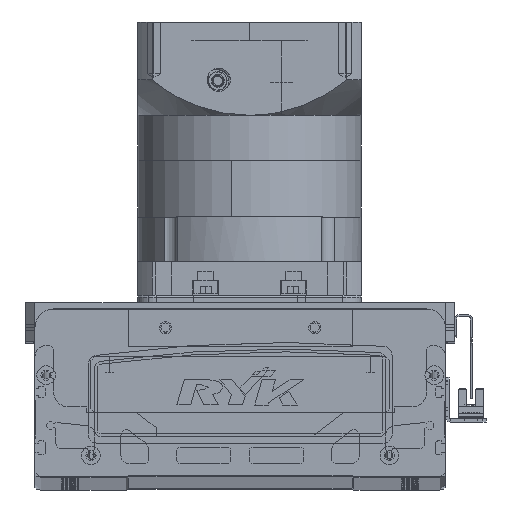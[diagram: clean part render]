
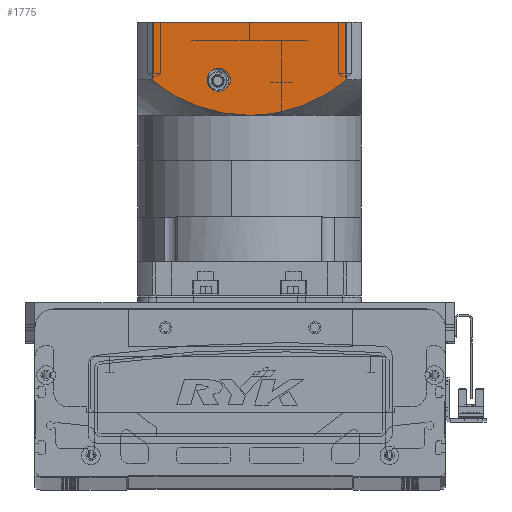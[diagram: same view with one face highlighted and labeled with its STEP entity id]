
A CAD part, top view. The second image highlights one B-rep face of the part: STEP entity #1775.
In plain terms, the highlighted planar face has unit normal (0, 0, 1) as drawn and (0, -1, 0) by its records, which use the part's own axes.
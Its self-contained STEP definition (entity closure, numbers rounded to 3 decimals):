
#416 = DIRECTION ( 'NONE',  ( 0., 1., 0. ) ) ;
#470 = VERTEX_POINT ( 'NONE', #7148 ) ;
#1609 = CIRCLE ( 'NONE', #64816, 6.25 ) ;
#1775 = ADVANCED_FACE ( 'NONE', ( #56887, #43440 ), #16376, .T. ) ;
#2527 = VERTEX_POINT ( 'NONE', #44979 ) ;
#3485 = CARTESIAN_POINT ( 'NONE',  ( -52.156, -60., -119.5 ) ) ;
#5519 = CARTESIAN_POINT ( 'NONE',  ( 25.577, -60., -104.596 ) ) ;
#6042 = CARTESIAN_POINT ( 'NONE',  ( 41.545, -60., -111.931 ) ) ;
#6159 = CARTESIAN_POINT ( 'NONE',  ( -9.477, -60., -101.046 ) ) ;
#6307 = CARTESIAN_POINT ( 'NONE',  ( 16.5, -60., -119.5 ) ) ;
#7148 = CARTESIAN_POINT ( 'NONE',  ( 52.156, -60., -119.5 ) ) ;
#7881 = CARTESIAN_POINT ( 'NONE',  ( 16.5, -60., -119.5 ) ) ;
#8103 = CARTESIAN_POINT ( 'NONE',  ( 16.5, -60., -125.75 ) ) ;
#8963 = AXIS2_PLACEMENT_3D ( 'NONE', #22832, #77818, #34610 ) ;
#9135 = CARTESIAN_POINT ( 'NONE',  ( -60., -60., -150.5 ) ) ;
#9288 = AXIS2_PLACEMENT_3D ( 'NONE', #6307, #416, #43598 ) ;
#10429 = EDGE_CURVE ( 'NONE', #43168, #30530, #49308, .T. ) ;
#11317 = CARTESIAN_POINT ( 'NONE',  ( -36.409, -60., -109.113 ) ) ;
#11457 = CARTESIAN_POINT ( 'NONE',  ( 4.753, -60., -100.5 ) ) ;
#11719 = CARTESIAN_POINT ( 'NONE',  ( 36.444, -60., -108.986 ) ) ;
#11818 = VECTOR ( 'NONE', #55446, 1000. ) ;
#14432 = ORIENTED_EDGE ( 'NONE', *, *, #22208, .F. ) ;
#15973 = CARTESIAN_POINT ( 'NONE',  ( -52.156, -60., -150.5 ) ) ;
#16376 = PLANE ( 'NONE',  #8963 ) ;
#18150 = CARTESIAN_POINT ( 'NONE',  ( 0., -60., -100.5 ) ) ;
#18535 = CARTESIAN_POINT ( 'NONE',  ( -18.792, -60., -102.562 ) ) ;
#18804 = CARTESIAN_POINT ( 'NONE',  ( -29.939, -60., -106.183 ) ) ;
#19048 = CARTESIAN_POINT ( 'NONE',  ( -23.319, -60., -103.777 ) ) ;
#19460 = DIRECTION ( 'NONE',  ( 0., 1., 0. ) ) ;
#20231 = ORIENTED_EDGE ( 'NONE', *, *, #72956, .F. ) ;
#22208 = EDGE_CURVE ( 'NONE', #43168, #57629, #41519, .T. ) ;
#22832 = CARTESIAN_POINT ( 'NONE',  ( -60., -60., -150.5 ) ) ;
#24117 = EDGE_CURVE ( 'NONE', #57629, #2527, #32903, .T. ) ;
#24598 = CARTESIAN_POINT ( 'NONE',  ( 45.542, -60., -114.478 ) ) ;
#24720 = CARTESIAN_POINT ( 'NONE',  ( -8.294, -60., -100.916 ) ) ;
#24951 = ORIENTED_EDGE ( 'NONE', *, *, #50006, .T. ) ;
#26439 = DIRECTION ( 'NONE',  ( 0., 0., -1. ) ) ;
#28230 = EDGE_LOOP ( 'NONE', ( #14432, #52913, #24951, #20231, #53551 ) ) ;
#30338 = CARTESIAN_POINT ( 'NONE',  ( -44.656, -60., -113.73 ) ) ;
#30530 = VERTEX_POINT ( 'NONE', #39099 ) ;
#31129 = CARTESIAN_POINT ( 'NONE',  ( -2.376, -60., -100.5 ) ) ;
#31643 = CARTESIAN_POINT ( 'NONE',  ( -12.993, -60., -101.537 ) ) ;
#32903 = B_SPLINE_CURVE_WITH_KNOTS ( 'NONE', 3,
 ( #72486, #35727, #30338, #79464, #78659, #11317, #66531, #35990, #18804, #19048, #18535, #31643, #74330, #6159, #24720, #37538, #31129, #37261 ),
 .UNSPECIFIED., .F., .F.,
 ( 4, 2, 2, 2, 2, 2, 2, 2, 4 ),
 ( 0., 0.014, 0.018, 0.021, 0.028, 0.042, 0.046, 0.05, 0.057 ),
 .UNSPECIFIED. ) ;
#33089 = VECTOR ( 'NONE', #46905, 1000. ) ;
#34610 = DIRECTION ( 'NONE',  ( 1., 0., 0. ) ) ;
#35036 = EDGE_LOOP ( 'NONE', ( #78167, #56108 ) ) ;
#35537 = CIRCLE ( 'NONE', #9288, 6.25 ) ;
#35727 = CARTESIAN_POINT ( 'NONE',  ( -48.52, -60., -116.438 ) ) ;
#35777 = EDGE_CURVE ( 'NONE', #43023, #55444, #1609, .T. ) ;
#35864 = CARTESIAN_POINT ( 'NONE',  ( 18.739, -60., -102.681 ) ) ;
#35875 = DIRECTION ( 'NONE',  ( 0., 0., 1. ) ) ;
#35990 = CARTESIAN_POINT ( 'NONE',  ( -32.118, -60., -107.084 ) ) ;
#36896 = CARTESIAN_POINT ( 'NONE',  ( 52.156, -60., -119.5 ) ) ;
#37261 = CARTESIAN_POINT ( 'NONE',  ( 0., -60., -100.5 ) ) ;
#37538 = CARTESIAN_POINT ( 'NONE',  ( -4.747, -60., -100.604 ) ) ;
#38889 = B_SPLINE_CURVE_WITH_KNOTS ( 'NONE', 3,
 ( #18150, #11457, #67719, #42270, #42793, #35864, #78799, #54301, #5519, #61002, #11719, #6042, #54556, #61262, #24598, #73668, #67446, #36896 ),
 .UNSPECIFIED., .F., .F.,
 ( 4, 2, 2, 2, 2, 2, 2, 2, 4 ),
 ( 0., 0.014, 0.018, 0.021, 0.028, 0.042, 0.046, 0.05, 0.057 ),
 .UNSPECIFIED. ) ;
#39099 = CARTESIAN_POINT ( 'NONE',  ( 52.156, -60., -150.5 ) ) ;
#41519 = LINE ( 'NONE', #56001, #11818 ) ;
#42270 = CARTESIAN_POINT ( 'NONE',  ( 15.267, -60., -101.938 ) ) ;
#42793 = CARTESIAN_POINT ( 'NONE',  ( 16.426, -60., -102.169 ) ) ;
#43023 = VERTEX_POINT ( 'NONE', #73170 ) ;
#43168 = VERTEX_POINT ( 'NONE', #15973 ) ;
#43440 = FACE_BOUND ( 'NONE', #35036, .T. ) ;
#43598 = DIRECTION ( 'NONE',  ( 0., 0., -1. ) ) ;
#43956 = EDGE_CURVE ( 'NONE', #55444, #43023, #35537, .T. ) ;
#44979 = CARTESIAN_POINT ( 'NONE',  ( 0., -60., -100.5 ) ) ;
#45188 = VECTOR ( 'NONE', #35875, 1000. ) ;
#46905 = DIRECTION ( 'NONE',  ( 1., 0., 0. ) ) ;
#47117 = LINE ( 'NONE', #60761, #45188 ) ;
#49308 = LINE ( 'NONE', #9135, #33089 ) ;
#50006 = EDGE_CURVE ( 'NONE', #30530, #470, #47117, .T. ) ;
#52913 = ORIENTED_EDGE ( 'NONE', *, *, #10429, .T. ) ;
#53551 = ORIENTED_EDGE ( 'NONE', *, *, #24117, .F. ) ;
#54301 = CARTESIAN_POINT ( 'NONE',  ( 23.329, -60., -103.886 ) ) ;
#54556 = CARTESIAN_POINT ( 'NONE',  ( 42.555, -60., -112.543 ) ) ;
#55444 = VERTEX_POINT ( 'NONE', #8103 ) ;
#55446 = DIRECTION ( 'NONE',  ( 0., 0., 1. ) ) ;
#56001 = CARTESIAN_POINT ( 'NONE',  ( -52.156, -60., -97.5 ) ) ;
#56108 = ORIENTED_EDGE ( 'NONE', *, *, #35777, .T. ) ;
#56887 = FACE_OUTER_BOUND ( 'NONE', #28230, .T. ) ;
#57629 = VERTEX_POINT ( 'NONE', #3485 ) ;
#60761 = CARTESIAN_POINT ( 'NONE',  ( 52.156, -60., -150.5 ) ) ;
#61002 = CARTESIAN_POINT ( 'NONE',  ( 32.196, -60., -107.007 ) ) ;
#61262 = CARTESIAN_POINT ( 'NONE',  ( 44.553, -60., -113.817 ) ) ;
#64816 = AXIS2_PLACEMENT_3D ( 'NONE', #7881, #19460, #26439 ) ;
#66531 = CARTESIAN_POINT ( 'NONE',  ( -35.342, -60., -108.587 ) ) ;
#67446 = CARTESIAN_POINT ( 'NONE',  ( 50.338, -60., -117.969 ) ) ;
#67719 = CARTESIAN_POINT ( 'NONE',  ( 9.454, -60., -100.914 ) ) ;
#72486 = CARTESIAN_POINT ( 'NONE',  ( -52.156, -60., -119.5 ) ) ;
#72956 = EDGE_CURVE ( 'NONE', #2527, #470, #38889, .T. ) ;
#73170 = CARTESIAN_POINT ( 'NONE',  ( 16.5, -60., -113.25 ) ) ;
#73668 = CARTESIAN_POINT ( 'NONE',  ( 48.457, -60., -116.522 ) ) ;
#74330 = CARTESIAN_POINT ( 'NONE',  ( -11.825, -60., -101.356 ) ) ;
#77818 = DIRECTION ( 'NONE',  ( 0., -1., 0. ) ) ;
#78167 = ORIENTED_EDGE ( 'NONE', *, *, #43956, .T. ) ;
#78659 = CARTESIAN_POINT ( 'NONE',  ( -38.51, -60., -110.207 ) ) ;
#78799 = CARTESIAN_POINT ( 'NONE',  ( 19.894, -60., -102.964 ) ) ;
#79464 = CARTESIAN_POINT ( 'NONE',  ( -39.546, -60., -110.776 ) ) ;
